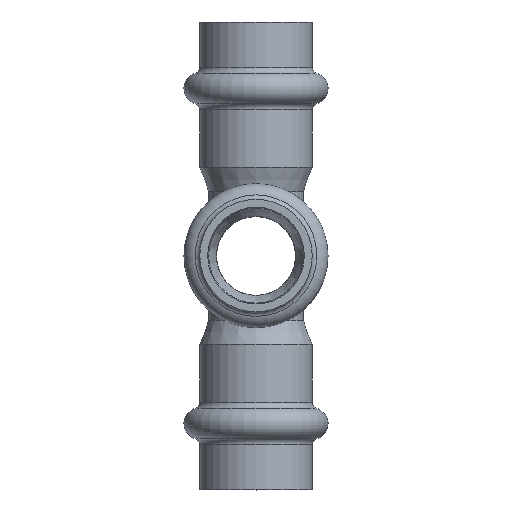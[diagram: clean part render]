
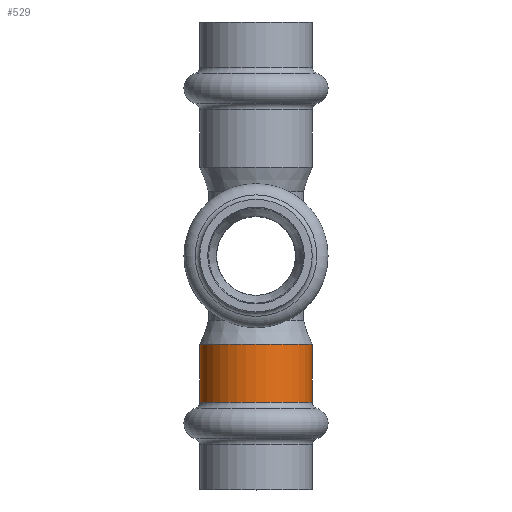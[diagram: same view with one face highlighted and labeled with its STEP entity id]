
A CAD part, top view. The second image highlights one B-rep face of the part: STEP entity #529.
In plain terms, the highlighted cylindrical face has radius 8.9 mm (diameter 17.8 mm), a full revolution.
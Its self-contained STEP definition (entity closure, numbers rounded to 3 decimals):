
#529=ADVANCED_FACE('',(#1000,#1002),#1004,.T.);
#1000=FACE_OUTER_BOUND('',#1001,.T.);
#1001=EDGE_LOOP('',(#1359));
#1002=FACE_OUTER_BOUND('',#1003,.T.);
#1003=EDGE_LOOP('',(#1360));
#1004=CYLINDRICAL_SURFACE('',#1005,8.9);
#1005=AXIS2_PLACEMENT_3D('',#1006,#1007,#1008);
#1006=CARTESIAN_POINT('',(0.,-23.146,0.));
#1007=DIRECTION('',(0.,1.,0.));
#1008=DIRECTION('',(0.,0.,1.));
#1359=ORIENTED_EDGE('',*,*,#1453,.F.);
#1360=ORIENTED_EDGE('',*,*,#1458,.T.);
#1453=EDGE_CURVE('',#1543,#1541,#1544,.T.);
#1458=EDGE_CURVE('',#1552,#1552,#1553,.T.);
#1541=VERTEX_POINT('',#1751);
#1543=VERTEX_POINT('',#1755);
#1544=CIRCLE('',#1756,8.9);
#1552=VERTEX_POINT('',#1778);
#1553=CIRCLE('',#1779,8.9);
#1751=CARTESIAN_POINT('',(0.,-14.,8.9));
#1755=CARTESIAN_POINT('',(0.,-14.,8.9));
#1756=AXIS2_PLACEMENT_3D('',#1757,#1758,#1759);
#1757=CARTESIAN_POINT('',(0.,-14.,0.));
#1758=DIRECTION('',(0.,1.,0.));
#1759=DIRECTION('',(0.,0.,1.));
#1778=CARTESIAN_POINT('',(0.,-23.146,8.9));
#1779=AXIS2_PLACEMENT_3D('',#1780,#1781,#1782);
#1780=CARTESIAN_POINT('',(0.,-23.146,0.));
#1781=DIRECTION('',(0.,1.,0.));
#1782=DIRECTION('',(0.,0.,1.));
